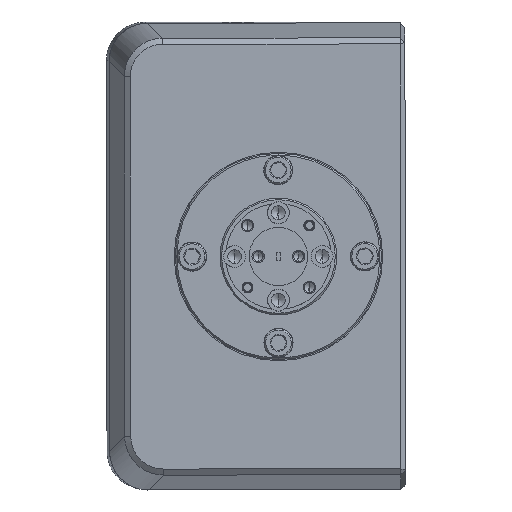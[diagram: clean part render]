
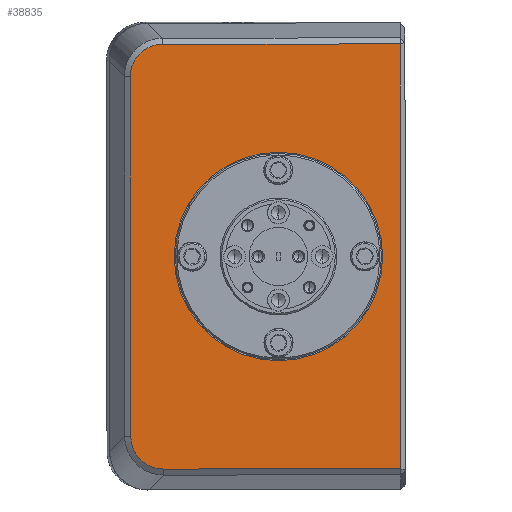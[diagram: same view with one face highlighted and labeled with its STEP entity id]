
A CAD part, left-side view. The second image highlights one B-rep face of the part: STEP entity #38835.
In plain terms, the highlighted planar face has unit normal (-1, -0.002, -0.001).
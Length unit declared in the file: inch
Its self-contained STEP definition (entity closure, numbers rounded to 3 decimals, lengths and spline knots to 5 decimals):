
#828 = EDGE_CURVE ( 'NONE', #12392, #20835, #1625, .T. ) ;
#1166 = CARTESIAN_POINT ( 'NONE',  ( -3.34451, -6.6669, -1.31942 ) ) ;
#1625 = LINE ( 'NONE', #1166, #5049 ) ;
#2386 = CARTESIAN_POINT ( 'NONE',  ( -3.34356, -6.82259, -2.67887 ) ) ;
#3780 = CARTESIAN_POINT ( 'NONE',  ( -3.34369, -6.74883, -2.64268 ) ) ;
#3904 = VECTOR ( 'NONE', #10665, 39.37008 ) ;
#4567 = DIRECTION ( 'NONE',  ( -0.001, 0.001, 1. ) ) ;
#5049 = VECTOR ( 'NONE', #72510, 39.37008 ) ;
#5746 = EDGE_CURVE ( 'NONE', #20835, #29548, #82456, .T. ) ;
#7296 = EDGE_CURVE ( 'NONE', #29548, #87960, #40587, .T. ) ;
#7593 = VERTEX_POINT ( 'NONE', #27052 ) ;
#9227 = VERTEX_POINT ( 'NONE', #22059 ) ;
#9291 = CARTESIAN_POINT ( 'NONE',  ( -3.34347, -6.87759, -2.68423 ) ) ;
#9812 = VECTOR ( 'NONE', #40165, 39.37008 ) ;
#10581 = ORIENTED_EDGE ( 'NONE', *, *, #19119, .T. ) ;
#10665 = DIRECTION ( 'NONE',  ( -0.001, 0.001, 1. ) ) ;
#10738 = FACE_OUTER_BOUND ( 'NONE', #79260, .T. ) ;
#11382 = AXIS2_PLACEMENT_3D ( 'NONE', #55140, #34260, #4567 ) ;
#12392 = VERTEX_POINT ( 'NONE', #82311 ) ;
#16702 = CARTESIAN_POINT ( 'NONE',  ( -3.34351, -6.85004, -2.68427 ) ) ;
#17775 = DIRECTION ( 'NONE',  ( -1., -0.002, -0.001 ) ) ;
#18907 = ORIENTED_EDGE ( 'NONE', *, *, #7296, .T. ) ;
#19019 = ORIENTED_EDGE ( 'NONE', *, *, #5746, .T. ) ;
#19119 = EDGE_CURVE ( 'NONE', #87960, #7593, #74196, .T. ) ;
#20835 = VERTEX_POINT ( 'NONE', #76226 ) ;
#22059 = CARTESIAN_POINT ( 'NONE',  ( -3.34337, -7.6161, -0.64819 ) ) ;
#23738 = DIRECTION ( 'NONE',  ( 1., 0.002, 0.001 ) ) ;
#24188 = CARTESIAN_POINT ( 'NONE',  ( -3.34323, -7.48197, -1.31837 ) ) ;
#24517 = ORIENTED_EDGE ( 'NONE', *, *, #828, .T. ) ;
#24604 = ORIENTED_EDGE ( 'NONE', *, *, #73876, .T. ) ;
#24845 = ORIENTED_EDGE ( 'NONE', *, *, #52186, .F. ) ;
#27052 = CARTESIAN_POINT ( 'NONE',  ( -3.34251, -8.4002, 0.0479 ) ) ;
#29548 = VERTEX_POINT ( 'NONE', #46858 ) ;
#29872 = VECTOR ( 'NONE', #35573, 39.37008 ) ;
#30698 = CARTESIAN_POINT ( 'NONE',  ( -3.34377, -6.71028, -2.60422 ) ) ;
#31622 = CARTESIAN_POINT ( 'NONE',  ( -3.34389, -6.66843, -2.50307 ) ) ;
#34260 = DIRECTION ( 'NONE',  ( -1., -0.002, -0.001 ) ) ;
#35573 = DIRECTION ( 'NONE',  ( -0.002, 1., -0.001 ) ) ;
#36631 = AXIS2_PLACEMENT_3D ( 'NONE', #52635, #17775, #80761 ) ;
#37947 = CARTESIAN_POINT ( 'NONE',  ( -3.34252, -7.48374, -2.68344 ) ) ;
#38159 = DIRECTION ( 'NONE',  ( 0.001, -0.001, -1. ) ) ;
#38835 = ADVANCED_FACE ( 'NONE', ( #10738, #87216 ), #58547, .F. ) ;
#40165 = DIRECTION ( 'NONE',  ( 0.002, -1., 0.001 ) ) ;
#40355 = EDGE_CURVE ( 'NONE', #7593, #47831, #49909, .T. ) ;
#40357 = B_SPLINE_CURVE_WITH_KNOTS ( 'NONE', 3,
 ( #40910, #48822, #47477, #83069, #69599, #56681, #70039, #54890, #90379, #90822 ),
 .UNSPECIFIED., .F., .F.,
 ( 4, 2, 2, 2, 4 ),
 ( 0., 0.25, 0.5, 0.75, 1. ),
 .UNSPECIFIED. ) ;
#40587 = LINE ( 'NONE', #37947, #9812 ) ;
#40910 = CARTESIAN_POINT ( 'NONE',  ( -3.34489, -6.87405, 0.04592 ) ) ;
#46016 = AXIS2_PLACEMENT_3D ( 'NONE', #24188, #23738, #38159 ) ;
#46858 = CARTESIAN_POINT ( 'NONE',  ( -3.34347, -6.87759, -2.68423 ) ) ;
#47477 = CARTESIAN_POINT ( 'NONE',  ( -3.34498, -6.81907, 0.04042 ) ) ;
#47824 = CARTESIAN_POINT ( 'NONE',  ( -3.3418, -8.40197, -1.31717 ) ) ;
#47831 = VERTEX_POINT ( 'NONE', #85601 ) ;
#48485 = CIRCLE ( 'NONE', #11382, 0.67 ) ;
#48822 = CARTESIAN_POINT ( 'NONE',  ( -3.34494, -6.84656, 0.04589 ) ) ;
#49909 = LINE ( 'NONE', #85058, #29872 ) ;
#52074 = CARTESIAN_POINT ( 'NONE',  ( -3.34391, -6.6684, -2.47558 ) ) ;
#52186 = EDGE_CURVE ( 'NONE', #9227, #85617, #77950, .T. ) ;
#52516 = CARTESIAN_POINT ( 'NONE',  ( -3.34365, -6.77209, -2.65813 ) ) ;
#52635 = CARTESIAN_POINT ( 'NONE',  ( -3.34302, -7.61697, -1.31819 ) ) ;
#53425 = ORIENTED_EDGE ( 'NONE', *, *, #40355, .T. ) ;
#54890 = CARTESIAN_POINT ( 'NONE',  ( -3.34513, -6.67076, -0.10827 ) ) ;
#55140 = CARTESIAN_POINT ( 'NONE',  ( -3.34302, -7.61697, -1.31819 ) ) ;
#56681 = CARTESIAN_POINT ( 'NONE',  ( -3.34511, -6.70695, -0.03451 ) ) ;
#58547 = PLANE ( 'NONE',  #46016 ) ;
#59442 = CARTESIAN_POINT ( 'NONE',  ( -3.34387, -6.6739, -2.53056 ) ) ;
#65496 = EDGE_LOOP ( 'NONE', ( #24845, #75295 ) ) ;
#69599 = CARTESIAN_POINT ( 'NONE',  ( -3.34507, -6.74541, 0.00403 ) ) ;
#70039 = CARTESIAN_POINT ( 'NONE',  ( -3.34512, -6.6915, -0.05777 ) ) ;
#72510 = DIRECTION ( 'NONE',  ( 0.001, -0.001, -1. ) ) ;
#73876 = EDGE_CURVE ( 'NONE', #47831, #12392, #40357, .T. ) ;
#74196 = LINE ( 'NONE', #47824, #3904 ) ;
#75295 = ORIENTED_EDGE ( 'NONE', *, *, #83049, .F. ) ;
#76226 = CARTESIAN_POINT ( 'NONE',  ( -3.34391, -6.6684, -2.47558 ) ) ;
#77950 = CIRCLE ( 'NONE', #36631, 0.67 ) ;
#79260 = EDGE_LOOP ( 'NONE', ( #19019, #18907, #10581, #53425, #24604, #24517 ) ) ;
#80761 = DIRECTION ( 'NONE',  ( -0.001, 0.001, 1. ) ) ;
#81117 = CARTESIAN_POINT ( 'NONE',  ( -3.34381, -6.69476, -2.58101 ) ) ;
#81876 = CARTESIAN_POINT ( 'NONE',  ( -3.34109, -8.40374, -2.68225 ) ) ;
#82311 = CARTESIAN_POINT ( 'NONE',  ( -3.34511, -6.6654, -0.16327 ) ) ;
#82456 = B_SPLINE_CURVE_WITH_KNOTS ( 'NONE', 3,
 ( #52074, #31622, #59442, #81117, #30698, #3780, #52516, #2386, #16702, #9291 ),
 .UNSPECIFIED., .F., .F.,
 ( 4, 2, 2, 2, 4 ),
 ( 0., 0.25, 0.5, 0.75, 1. ),
 .UNSPECIFIED. ) ;
#83049 = EDGE_CURVE ( 'NONE', #85617, #9227, #48485, .T. ) ;
#83069 = CARTESIAN_POINT ( 'NONE',  ( -3.34504, -6.76862, 0.01956 ) ) ;
#85058 = CARTESIAN_POINT ( 'NONE',  ( -3.34394, -7.4802, 0.04671 ) ) ;
#85601 = CARTESIAN_POINT ( 'NONE',  ( -3.34489, -6.87405, 0.04592 ) ) ;
#85617 = VERTEX_POINT ( 'NONE', #89675 ) ;
#87216 = FACE_BOUND ( 'NONE', #65496, .T. ) ;
#87960 = VERTEX_POINT ( 'NONE', #81876 ) ;
#89675 = CARTESIAN_POINT ( 'NONE',  ( -3.34267, -7.61784, -1.98819 ) ) ;
#90379 = CARTESIAN_POINT ( 'NONE',  ( -3.34512, -6.66536, -0.13572 ) ) ;
#90822 = CARTESIAN_POINT ( 'NONE',  ( -3.34511, -6.6654, -0.16327 ) ) ;
